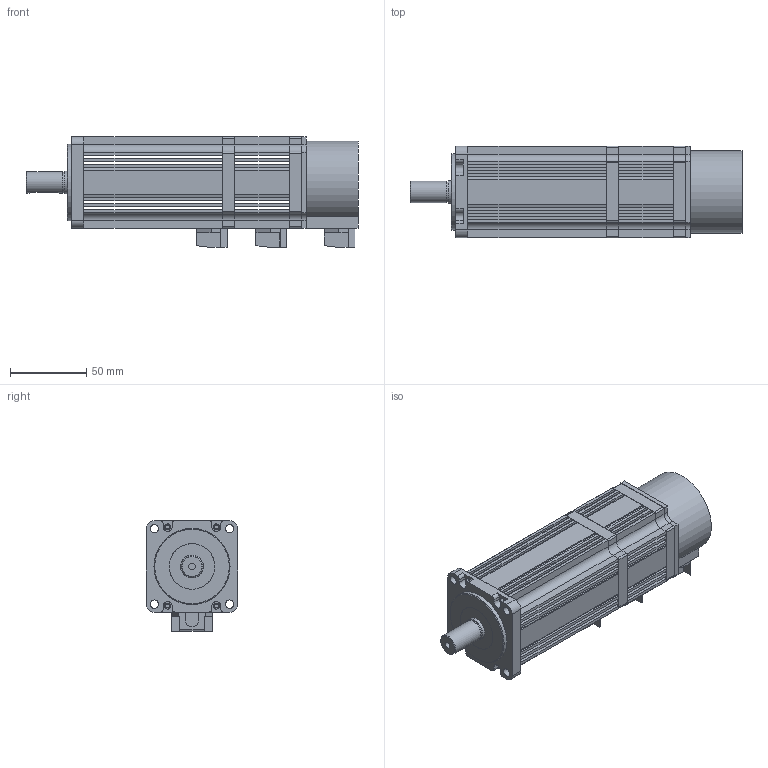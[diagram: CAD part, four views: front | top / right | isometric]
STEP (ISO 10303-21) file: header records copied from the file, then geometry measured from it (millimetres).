
FILE_DESCRIPTION (( 'STEP AP203' ), '1' );
FILE_NAME ('60-01330 - 抱闸.STEP', '2019-12-11T08:11:48', ( '微软用户' ), ( '微软中国' ), 'SwSTEP 2.0', 'SolidWorks 2016', '' );
FILE_SCHEMA (( 'CONFIG_CONTROL_DESIGN' ));
Length unit declared in the file: millimetre
Products named in the file (1): 60-01330 - 惕掅
Bounding box: 218 x 60 x 72.5 mm (x, y, z)
Surface area: 74706.5 mm2 (no closed solid volume)
Topology: 0 solids, 12 shells, 384 faces, 1214 edges, 840 vertices
Faces by surface type: plane 283, cylinder 95, cone 6
Full cylindrical faces by diameter (mm): 3.5 x6, 4 x8, 4.2 x1, 5.5 x4, 8 x1, 13.6 x1, 14 x1, 15 x1, 30 x1, 50 x1
Entity records: 13596 total; most frequent: CARTESIAN_POINT 2774, DIRECTION 2204, ORIENTED_EDGE 2068, EDGE_CURVE 1162, VECTOR 884, LINE 884, VERTEX_POINT 820, AXIS2_PLACEMENT_3D 660
